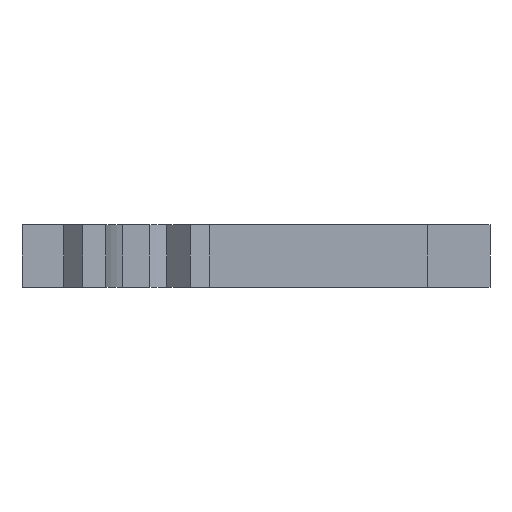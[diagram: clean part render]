
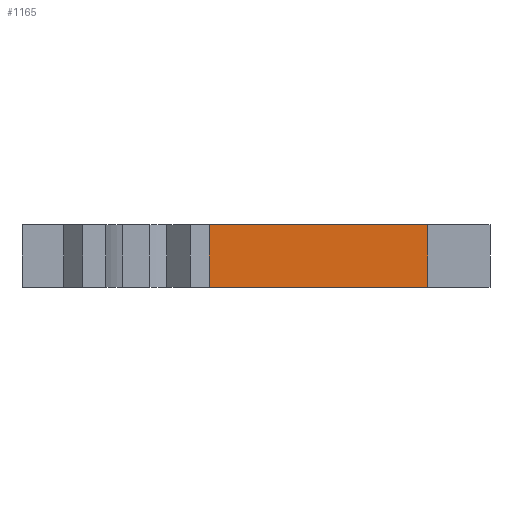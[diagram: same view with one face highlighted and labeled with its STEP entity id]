
A CAD part, front view. The second image highlights one B-rep face of the part: STEP entity #1165.
In plain terms, the highlighted planar face has unit normal (0, -1, 0).
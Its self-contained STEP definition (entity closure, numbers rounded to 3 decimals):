
#42 = VERTEX_POINT('',#43);
#43 = CARTESIAN_POINT('',(28.,-3.,3.));
#50 = PLANE('',#51);
#51 = AXIS2_PLACEMENT_3D('',#52,#53,#54);
#52 = CARTESIAN_POINT('',(28.,-5.7,-3.));
#53 = DIRECTION('',(1.,0.,0.));
#54 = DIRECTION('',(0.,0.,1.));
#62 = PLANE('',#63);
#63 = AXIS2_PLACEMENT_3D('',#64,#65,#66);
#64 = CARTESIAN_POINT('',(28.,-5.7,3.));
#65 = DIRECTION('',(0.,0.,1.));
#66 = DIRECTION('',(1.,0.,0.));
#103 = VERTEX_POINT('',#104);
#104 = CARTESIAN_POINT('',(28.,-3.,-3.));
#118 = PLANE('',#119);
#119 = AXIS2_PLACEMENT_3D('',#120,#121,#122);
#120 = CARTESIAN_POINT('',(28.,-5.7,-3.));
#121 = DIRECTION('',(0.,0.,1.));
#122 = DIRECTION('',(1.,0.,0.));
#130 = EDGE_CURVE('',#42,#103,#131,.T.);
#131 = SURFACE_CURVE('',#132,(#136,#142),.PCURVE_S1.);
#132 = LINE('',#133,#134);
#133 = CARTESIAN_POINT('',(28.,-3.,-3.));
#134 = VECTOR('',#135,1.);
#135 = DIRECTION('',(0.,0.,-1.));
#136 = PCURVE('',#50,#137);
#137 = DEFINITIONAL_REPRESENTATION('',(#138),#141);
#138 = B_SPLINE_CURVE_WITH_KNOTS('',1,(#139,#140),.UNSPECIFIED.,.F.,.F.,
  (2,2),(-6.,0.),.PIECEWISE_BEZIER_KNOTS.);
#139 = CARTESIAN_POINT('',(6.,-2.7));
#140 = CARTESIAN_POINT('',(0.,-2.7));
#141 = ( GEOMETRIC_REPRESENTATION_CONTEXT(2) 
PARAMETRIC_REPRESENTATION_CONTEXT() REPRESENTATION_CONTEXT('2D SPACE',''
  ) );
#142 = PCURVE('',#143,#148);
#143 = PLANE('',#144);
#144 = AXIS2_PLACEMENT_3D('',#145,#146,#147);
#145 = CARTESIAN_POINT('',(-4.,-3.,-3.));
#146 = DIRECTION('',(0.,1.,0.));
#147 = DIRECTION('',(0.,0.,1.));
#148 = DEFINITIONAL_REPRESENTATION('',(#149),#152);
#149 = B_SPLINE_CURVE_WITH_KNOTS('',1,(#150,#151),.UNSPECIFIED.,.F.,.F.,
  (2,2),(-6.,0.),.PIECEWISE_BEZIER_KNOTS.);
#150 = CARTESIAN_POINT('',(6.,32.));
#151 = CARTESIAN_POINT('',(0.,32.));
#152 = ( GEOMETRIC_REPRESENTATION_CONTEXT(2) 
PARAMETRIC_REPRESENTATION_CONTEXT() REPRESENTATION_CONTEXT('2D SPACE',''
  ) );
#1087 = VERTEX_POINT('',#1088);
#1088 = CARTESIAN_POINT('',(4.829,-3.,3.));
#1102 = PLANE('',#1103);
#1103 = AXIS2_PLACEMENT_3D('',#1104,#1105,#1106);
#1104 = CARTESIAN_POINT('',(4.521,-2.692,-3.));
#1105 = DIRECTION('',(0.707,0.707,0.));
#1106 = DIRECTION('',(0.,0.,1.));
#1114 = EDGE_CURVE('',#1087,#42,#1115,.T.);
#1115 = SURFACE_CURVE('',#1116,(#1120,#1127),.PCURVE_S1.);
#1116 = LINE('',#1117,#1118);
#1117 = CARTESIAN_POINT('',(-4.,-3.,3.));
#1118 = VECTOR('',#1119,1.);
#1119 = DIRECTION('',(1.,0.,0.));
#1120 = PCURVE('',#62,#1121);
#1121 = DEFINITIONAL_REPRESENTATION('',(#1122),#1126);
#1122 = LINE('',#1123,#1124);
#1123 = CARTESIAN_POINT('',(-32.,2.7));
#1124 = VECTOR('',#1125,1.);
#1125 = DIRECTION('',(1.,0.));
#1126 = ( GEOMETRIC_REPRESENTATION_CONTEXT(2) 
PARAMETRIC_REPRESENTATION_CONTEXT() REPRESENTATION_CONTEXT('2D SPACE',''
  ) );
#1127 = PCURVE('',#143,#1128);
#1128 = DEFINITIONAL_REPRESENTATION('',(#1129),#1133);
#1129 = LINE('',#1130,#1131);
#1130 = CARTESIAN_POINT('',(6.,0.));
#1131 = VECTOR('',#1132,1.);
#1132 = DIRECTION('',(0.,1.));
#1133 = ( GEOMETRIC_REPRESENTATION_CONTEXT(2) 
PARAMETRIC_REPRESENTATION_CONTEXT() REPRESENTATION_CONTEXT('2D SPACE',''
  ) );
#1165 = ADVANCED_FACE('',(#1166),#143,.F.);
#1166 = FACE_BOUND('',#1167,.F.);
#1167 = EDGE_LOOP('',(#1168,#1191,#1210,#1211));
#1168 = ORIENTED_EDGE('',*,*,#1169,.F.);
#1169 = EDGE_CURVE('',#1170,#103,#1172,.T.);
#1170 = VERTEX_POINT('',#1171);
#1171 = CARTESIAN_POINT('',(4.829,-3.,-3.));
#1172 = SURFACE_CURVE('',#1173,(#1177,#1184),.PCURVE_S1.);
#1173 = LINE('',#1174,#1175);
#1174 = CARTESIAN_POINT('',(-4.,-3.,-3.));
#1175 = VECTOR('',#1176,1.);
#1176 = DIRECTION('',(1.,0.,0.));
#1177 = PCURVE('',#143,#1178);
#1178 = DEFINITIONAL_REPRESENTATION('',(#1179),#1183);
#1179 = LINE('',#1180,#1181);
#1180 = CARTESIAN_POINT('',(0.,0.));
#1181 = VECTOR('',#1182,1.);
#1182 = DIRECTION('',(0.,1.));
#1183 = ( GEOMETRIC_REPRESENTATION_CONTEXT(2) 
PARAMETRIC_REPRESENTATION_CONTEXT() REPRESENTATION_CONTEXT('2D SPACE',''
  ) );
#1184 = PCURVE('',#118,#1185);
#1185 = DEFINITIONAL_REPRESENTATION('',(#1186),#1190);
#1186 = LINE('',#1187,#1188);
#1187 = CARTESIAN_POINT('',(-32.,2.7));
#1188 = VECTOR('',#1189,1.);
#1189 = DIRECTION('',(1.,0.));
#1190 = ( GEOMETRIC_REPRESENTATION_CONTEXT(2) 
PARAMETRIC_REPRESENTATION_CONTEXT() REPRESENTATION_CONTEXT('2D SPACE',''
  ) );
#1191 = ORIENTED_EDGE('',*,*,#1192,.F.);
#1192 = EDGE_CURVE('',#1087,#1170,#1193,.T.);
#1193 = SURFACE_CURVE('',#1194,(#1198,#1204),.PCURVE_S1.);
#1194 = LINE('',#1195,#1196);
#1195 = CARTESIAN_POINT('',(4.829,-3.,-3.));
#1196 = VECTOR('',#1197,1.);
#1197 = DIRECTION('',(0.,0.,-1.));
#1198 = PCURVE('',#143,#1199);
#1199 = DEFINITIONAL_REPRESENTATION('',(#1200),#1203);
#1200 = B_SPLINE_CURVE_WITH_KNOTS('',1,(#1201,#1202),.UNSPECIFIED.,.F.,
  .F.,(2,2),(-6.,0.),.PIECEWISE_BEZIER_KNOTS.);
#1201 = CARTESIAN_POINT('',(6.,8.829));
#1202 = CARTESIAN_POINT('',(0.,8.829));
#1203 = ( GEOMETRIC_REPRESENTATION_CONTEXT(2) 
PARAMETRIC_REPRESENTATION_CONTEXT() REPRESENTATION_CONTEXT('2D SPACE',''
  ) );
#1204 = PCURVE('',#1102,#1205);
#1205 = DEFINITIONAL_REPRESENTATION('',(#1206),#1209);
#1206 = B_SPLINE_CURVE_WITH_KNOTS('',1,(#1207,#1208),.UNSPECIFIED.,.F.,
  .F.,(2,2),(-6.,0.),.PIECEWISE_BEZIER_KNOTS.);
#1207 = CARTESIAN_POINT('',(6.,0.436));
#1208 = CARTESIAN_POINT('',(0.,0.436));
#1209 = ( GEOMETRIC_REPRESENTATION_CONTEXT(2) 
PARAMETRIC_REPRESENTATION_CONTEXT() REPRESENTATION_CONTEXT('2D SPACE',''
  ) );
#1210 = ORIENTED_EDGE('',*,*,#1114,.T.);
#1211 = ORIENTED_EDGE('',*,*,#130,.T.);
